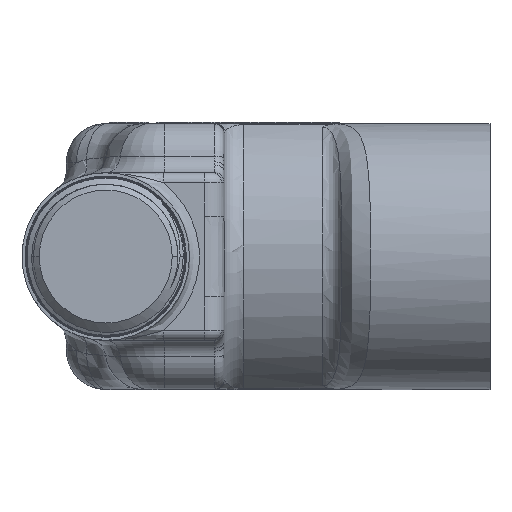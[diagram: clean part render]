
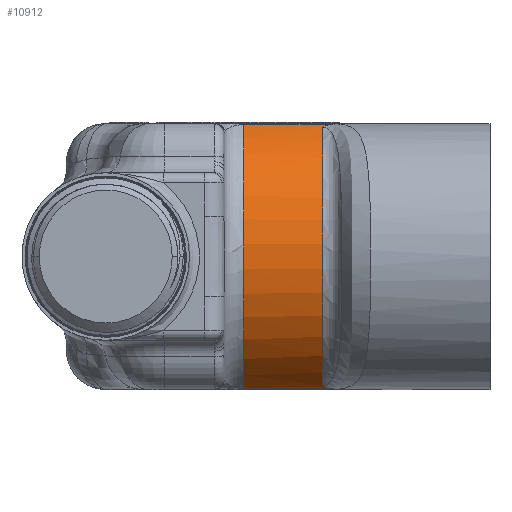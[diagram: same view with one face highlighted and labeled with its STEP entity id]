
A CAD part, front view. The second image highlights one B-rep face of the part: STEP entity #10912.
In plain terms, the highlighted cylindrical face has radius 14.971 mm (diameter 29.941 mm), a partial arc.
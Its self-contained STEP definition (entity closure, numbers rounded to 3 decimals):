
#12 = CARTESIAN_POINT ( 'NONE',  ( 10.216, -1.507, -13.246 ) ) ;
#997 = ORIENTED_EDGE ( 'NONE', *, *, #7204, .T. ) ;
#1015 = DIRECTION ( 'NONE',  ( 1., 0., 0. ) ) ;
#1123 = DIRECTION ( 'NONE',  ( 0., 0., 1. ) ) ;
#1370 = DIRECTION ( 'NONE',  ( 0., 0., 1. ) ) ;
#2223 = CARTESIAN_POINT ( 'NONE',  ( 10.048, -1.67, 13.158 ) ) ;
#2295 = CARTESIAN_POINT ( 'NONE',  ( 10., -1.727, 13.127 ) ) ;
#2434 = CARTESIAN_POINT ( 'NONE',  ( 10., -1.727, 13.127 ) ) ;
#2530 = CARTESIAN_POINT ( 'NONE',  ( 2., -1.215, -13.395 ) ) ;
#3041 = ORIENTED_EDGE ( 'NONE', *, *, #3942, .F. ) ;
#3318 = CARTESIAN_POINT ( 'NONE',  ( 2., -1.215, 13.395 ) ) ;
#3600 = AXIS2_PLACEMENT_3D ( 'NONE', #18866, #10756, #12752 ) ;
#3942 = EDGE_CURVE ( 'NONE', #4580, #11034, #11795, .T. ) ;
#4013 = VECTOR ( 'NONE', #1015, 1000. ) ;
#4474 = VERTEX_POINT ( 'NONE', #13466 ) ;
#4580 = VERTEX_POINT ( 'NONE', #9293 ) ;
#5394 = CARTESIAN_POINT ( 'NONE',  ( 40.306, -1.215, 13.395 ) ) ;
#5525 = FACE_OUTER_BOUND ( 'NONE', #15213, .T. ) ;
#5714 = VERTEX_POINT ( 'NONE', #2434 ) ;
#5968 = CARTESIAN_POINT ( 'NONE',  ( 40.306, -1.215, -13.395 ) ) ;
#6110 = ORIENTED_EDGE ( 'NONE', *, *, #13614, .T. ) ;
#6418 = EDGE_CURVE ( 'NONE', #4580, #5714, #15368, .T. ) ;
#6585 = CARTESIAN_POINT ( 'NONE',  ( 10.779, -1.215, -13.395 ) ) ;
#7204 = EDGE_CURVE ( 'NONE', #18784, #11034, #17184, .T. ) ;
#7238 = CARTESIAN_POINT ( 'NONE',  ( 10.625, -1.267, 13.369 ) ) ;
#8308 = VECTOR ( 'NONE', #18834, 1000. ) ;
#8572 = ORIENTED_EDGE ( 'NONE', *, *, #6418, .T. ) ;
#8982 = CARTESIAN_POINT ( 'NONE',  ( 10.779, -1.215, 13.395 ) ) ;
#9293 = CARTESIAN_POINT ( 'NONE',  ( 10., -1.727, -13.127 ) ) ;
#9371 = ORIENTED_EDGE ( 'NONE', *, *, #13776, .T. ) ;
#9906 = CARTESIAN_POINT ( 'NONE',  ( 10.098, -1.611, -13.191 ) ) ;
#10756 = DIRECTION ( 'NONE',  ( -1., 0., 0. ) ) ;
#10912 = ADVANCED_FACE ( 'NONE', ( #5525 ), #20491, .T. ) ;
#11034 = VERTEX_POINT ( 'NONE', #12621 ) ;
#11298 = CARTESIAN_POINT ( 'NONE',  ( 2., 5.471, 0. ) ) ;
#11467 = CARTESIAN_POINT ( 'NONE',  ( 10., 5.471, 0. ) ) ;
#11795 = B_SPLINE_CURVE_WITH_KNOTS ( 'NONE', 3,
 ( #17970, #9906, #12, #19681, #19618, #6585 ),
 .UNSPECIFIED., .F., .F.,
 ( 4, 2, 4 ),
 ( 0., 0., 0.001 ),
 .UNSPECIFIED. ) ;
#12228 = CARTESIAN_POINT ( 'NONE',  ( 10.219, -1.511, 13.243 ) ) ;
#12621 = CARTESIAN_POINT ( 'NONE',  ( 10.779, -1.215, -13.395 ) ) ;
#12752 = DIRECTION ( 'NONE',  ( 0., 0., 1. ) ) ;
#13191 = B_SPLINE_CURVE_WITH_KNOTS ( 'NONE', 3,
 ( #8982, #7238, #18772, #17181, #12228, #16962, #2223, #2295 ),
 .UNSPECIFIED., .F., .F.,
 ( 4, 2, 2, 4 ),
 ( 0.001, 0.001, 0.002, 0.002 ),
 .UNSPECIFIED. ) ;
#13466 = CARTESIAN_POINT ( 'NONE',  ( 10.779, -1.215, 13.395 ) ) ;
#13614 = EDGE_CURVE ( 'NONE', #4474, #17654, #18886, .T. ) ;
#13776 = EDGE_CURVE ( 'NONE', #17654, #18784, #20155, .T. ) ;
#14462 = DIRECTION ( 'NONE',  ( -1., 0., 0. ) ) ;
#14600 = EDGE_CURVE ( 'NONE', #4474, #5714, #13191, .T. ) ;
#15213 = EDGE_LOOP ( 'NONE', ( #9371, #997, #3041, #8572, #20189, #6110 ) ) ;
#15368 = CIRCLE ( 'NONE', #19314, 14.971 ) ;
#16962 = CARTESIAN_POINT ( 'NONE',  ( 10.102, -1.614, 13.188 ) ) ;
#17181 = CARTESIAN_POINT ( 'NONE',  ( 10.282, -1.464, 13.268 ) ) ;
#17184 = LINE ( 'NONE', #5968, #4013 ) ;
#17654 = VERTEX_POINT ( 'NONE', #3318 ) ;
#17827 = DIRECTION ( 'NONE',  ( 1., 0., 0. ) ) ;
#17970 = CARTESIAN_POINT ( 'NONE',  ( 10., -1.727, -13.127 ) ) ;
#18772 = CARTESIAN_POINT ( 'NONE',  ( 10.48, -1.335, 13.334 ) ) ;
#18784 = VERTEX_POINT ( 'NONE', #2530 ) ;
#18834 = DIRECTION ( 'NONE',  ( -1., 0., 0. ) ) ;
#18866 = CARTESIAN_POINT ( 'NONE',  ( 40.306, 5.471, 0. ) ) ;
#18886 = LINE ( 'NONE', #5394, #8308 ) ;
#19314 = AXIS2_PLACEMENT_3D ( 'NONE', #11467, #14462, #1370 ) ;
#19618 = CARTESIAN_POINT ( 'NONE',  ( 10.626, -1.267, -13.369 ) ) ;
#19681 = CARTESIAN_POINT ( 'NONE',  ( 10.482, -1.334, -13.335 ) ) ;
#20155 = CIRCLE ( 'NONE', #21192, 14.971 ) ;
#20189 = ORIENTED_EDGE ( 'NONE', *, *, #14600, .F. ) ;
#20491 = CYLINDRICAL_SURFACE ( 'NONE', #3600, 14.971 ) ;
#21192 = AXIS2_PLACEMENT_3D ( 'NONE', #11298, #17827, #1123 ) ;
